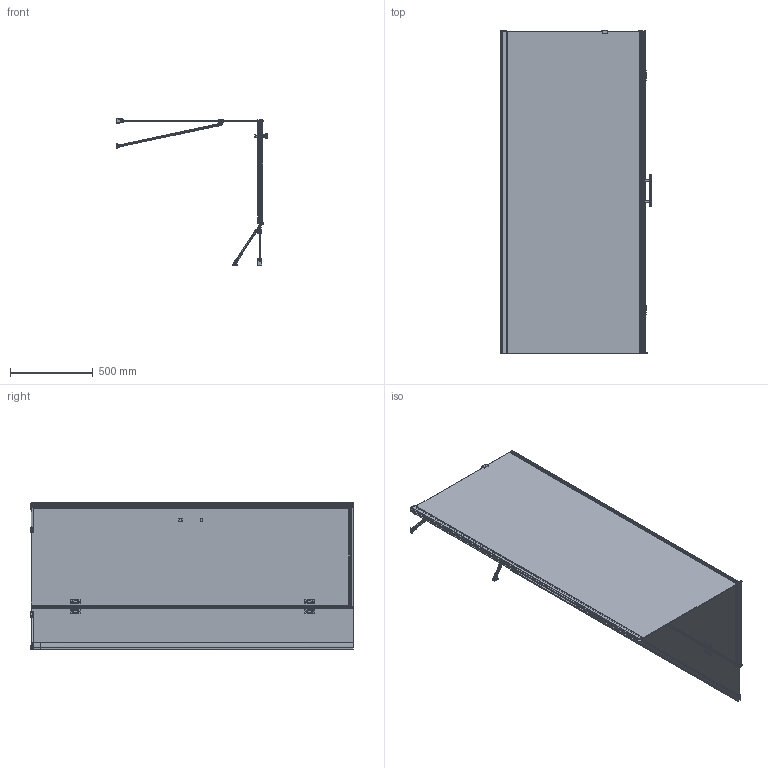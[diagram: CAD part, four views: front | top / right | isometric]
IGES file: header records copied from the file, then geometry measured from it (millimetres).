
Global section: file name: 5902539818949_igs; native system: Autodesk Inventor 2020; preprocessor: unknown; date: 20200727.153449; units: millimetre
Bounding box: 920.1 x 1955.35 x 890.33 mm (x, y, z)
Surface area: 8767330 mm2 (no closed solid volume)
Topology: 0 solids, 0 shells, 3483 faces, 24855 edges, 24809 vertices
Faces by surface type: bspline 2388, revolution 1094, offset 1
